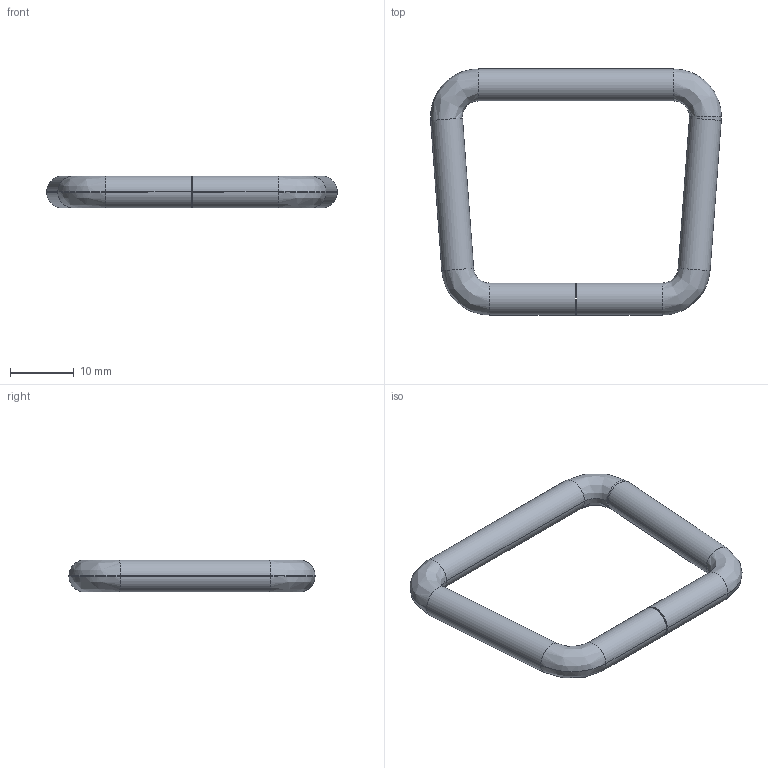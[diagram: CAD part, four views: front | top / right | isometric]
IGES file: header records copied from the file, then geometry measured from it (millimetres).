
Start section: SolidWorks IGES FILE using analytic representation for surfaces
Global section: file name: C:\Documents and Settings\lecoutey\Bureau\GO 33\33.200.10.IGS; native system: SolidWorks 2004 by SolidWorks Corporation; preprocessor: Version 5.3; author: lecoutey; date: 050329.114412; units: millimetre
Bounding box: 45.49 x 38.5 x 5 mm (x, y, z)
Surface area: 2173.6 mm2 (no closed solid volume)
Topology: 0 solids, 0 shells, 22 faces, 144 edges, 144 vertices
Faces by surface type: bspline 12, revolution 10
